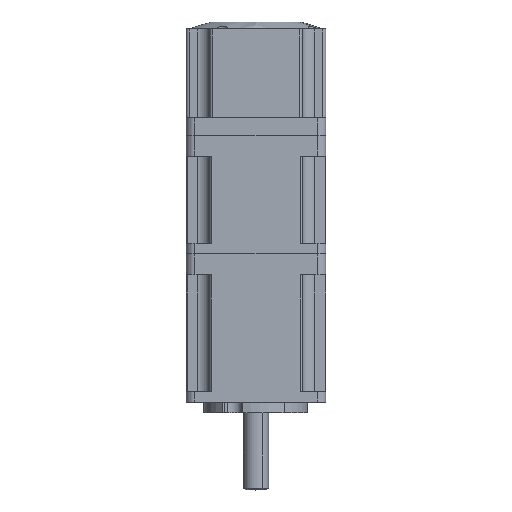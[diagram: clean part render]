
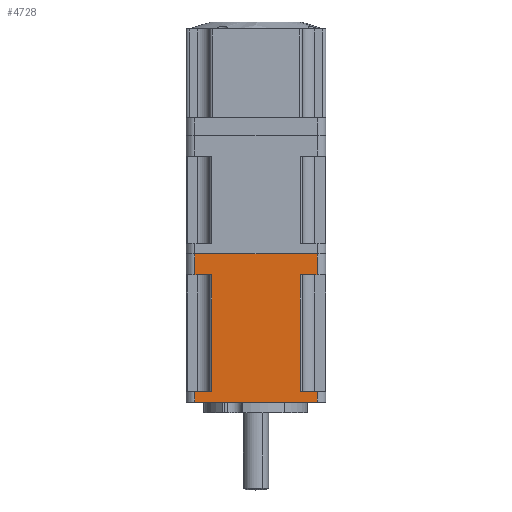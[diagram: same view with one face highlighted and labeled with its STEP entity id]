
A CAD part, top view. The second image highlights one B-rep face of the part: STEP entity #4728.
In plain terms, the highlighted planar face has unit normal (0, 0, 1).
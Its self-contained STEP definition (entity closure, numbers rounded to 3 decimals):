
#68 = ORIENTED_EDGE ( 'NONE', *, *, #2128, .F. ) ;
#127 = CARTESIAN_POINT ( 'NONE',  ( -1.039, 62.469, 73.692 ) ) ;
#206 = LINE ( 'NONE', #8833, #10479 ) ;
#232 = ORIENTED_EDGE ( 'NONE', *, *, #7313, .F. ) ;
#239 = CARTESIAN_POINT ( 'NONE',  ( 29.161, 22.969, 73.692 ) ) ;
#259 = VERTEX_POINT ( 'NONE', #10532 ) ;
#411 = DIRECTION ( 'NONE',  ( 0., -1., 0. ) ) ;
#527 = CARTESIAN_POINT ( 'NONE',  ( 33.961, 22.969, 73.692 ) ) ;
#610 = CARTESIAN_POINT ( 'NONE',  ( 33.961, 19.969, 73.692 ) ) ;
#707 = DIRECTION ( 'NONE',  ( 0., 0., -1. ) ) ;
#1215 = DIRECTION ( 'NONE',  ( 1., 0., 0. ) ) ;
#1231 = LINE ( 'NONE', #8728, #11729 ) ;
#1303 = VERTEX_POINT ( 'NONE', #9481 ) ;
#1333 = VERTEX_POINT ( 'NONE', #239 ) ;
#1360 = EDGE_CURVE ( 'NONE', #8077, #259, #10856, .T. ) ;
#1405 = ORIENTED_EDGE ( 'NONE', *, *, #11685, .F. ) ;
#1458 = CARTESIAN_POINT ( 'NONE',  ( 33.961, 62.469, 73.692 ) ) ;
#1465 = EDGE_CURVE ( 'NONE', #1303, #1555, #7496, .T. ) ;
#1555 = VERTEX_POINT ( 'NONE', #11956 ) ;
#1965 = VECTOR ( 'NONE', #2143, 1000. ) ;
#2128 = EDGE_CURVE ( 'NONE', #9692, #3900, #10387, .T. ) ;
#2143 = DIRECTION ( 'NONE',  ( 0., 1., 0. ) ) ;
#2276 = VECTOR ( 'NONE', #4032, 1000. ) ;
#2395 = ORIENTED_EDGE ( 'NONE', *, *, #12499, .F. ) ;
#2407 = CARTESIAN_POINT ( 'NONE',  ( 33.961, 56.469, 73.692 ) ) ;
#2558 = DIRECTION ( 'NONE',  ( 1., 0., 0. ) ) ;
#2611 = LINE ( 'NONE', #9096, #2276 ) ;
#3167 = EDGE_CURVE ( 'NONE', #3900, #9929, #1231, .T. ) ;
#3377 = ORIENTED_EDGE ( 'NONE', *, *, #7033, .F. ) ;
#3562 = VECTOR ( 'NONE', #1215, 1000. ) ;
#3677 = ORIENTED_EDGE ( 'NONE', *, *, #1360, .F. ) ;
#3883 = LINE ( 'NONE', #10377, #3562 ) ;
#3900 = VERTEX_POINT ( 'NONE', #9403 ) ;
#4032 = DIRECTION ( 'NONE',  ( -1., 0., 0. ) ) ;
#4123 = CARTESIAN_POINT ( 'NONE',  ( 3.761, 22.969, 73.692 ) ) ;
#4166 = EDGE_CURVE ( 'NONE', #6741, #9692, #2611, .T. ) ;
#4613 = VECTOR ( 'NONE', #7674, 1000. ) ;
#4653 = VERTEX_POINT ( 'NONE', #527 ) ;
#4728 = ADVANCED_FACE ( 'NONE', ( #9612 ), #8932, .F. ) ;
#4787 = LINE ( 'NONE', #12164, #1965 ) ;
#4793 = VECTOR ( 'NONE', #5403, 1000. ) ;
#4873 = CARTESIAN_POINT ( 'NONE',  ( -1.039, 19.969, 73.692 ) ) ;
#5043 = ORIENTED_EDGE ( 'NONE', *, *, #7403, .F. ) ;
#5166 = CARTESIAN_POINT ( 'NONE',  ( 3.761, 56.469, 73.692 ) ) ;
#5268 = VECTOR ( 'NONE', #12460, 1000. ) ;
#5403 = DIRECTION ( 'NONE',  ( 1., 0., 0. ) ) ;
#5604 = VECTOR ( 'NONE', #6919, 1000. ) ;
#5703 = ORIENTED_EDGE ( 'NONE', *, *, #1465, .F. ) ;
#6581 = CARTESIAN_POINT ( 'NONE',  ( 29.161, 62.469, 73.692 ) ) ;
#6741 = VERTEX_POINT ( 'NONE', #610 ) ;
#6919 = DIRECTION ( 'NONE',  ( -1., 0., 0. ) ) ;
#6925 = DIRECTION ( 'NONE',  ( 0., 1., 0. ) ) ;
#7033 = EDGE_CURVE ( 'NONE', #9929, #11480, #4787, .T. ) ;
#7313 = EDGE_CURVE ( 'NONE', #11480, #9730, #7321, .T. ) ;
#7321 = LINE ( 'NONE', #10636, #4613 ) ;
#7403 = EDGE_CURVE ( 'NONE', #1555, #8077, #11932, .T. ) ;
#7416 = ORIENTED_EDGE ( 'NONE', *, *, #3167, .F. ) ;
#7464 = VECTOR ( 'NONE', #10397, 1000. ) ;
#7496 = LINE ( 'NONE', #11346, #4793 ) ;
#7589 = ORIENTED_EDGE ( 'NONE', *, *, #7926, .F. ) ;
#7627 = LINE ( 'NONE', #6581, #5268 ) ;
#7674 = DIRECTION ( 'NONE',  ( -1., 0., 0. ) ) ;
#7802 = CARTESIAN_POINT ( 'NONE',  ( 33.961, 56.469, 73.692 ) ) ;
#7808 = EDGE_LOOP ( 'NONE', ( #3677, #5043, #5703, #2395, #232, #3377, #7416, #68, #11880, #1405, #12505, #7589 ) ) ;
#7926 = EDGE_CURVE ( 'NONE', #259, #1333, #7627, .T. ) ;
#7981 = DIRECTION ( 'NONE',  ( -1., 0., 0. ) ) ;
#8077 = VERTEX_POINT ( 'NONE', #2407 ) ;
#8728 = CARTESIAN_POINT ( 'NONE',  ( -3.539, 22.969, 73.692 ) ) ;
#8833 = CARTESIAN_POINT ( 'NONE',  ( -1.039, 62.469, 73.692 ) ) ;
#8932 = PLANE ( 'NONE',  #11096 ) ;
#9096 = CARTESIAN_POINT ( 'NONE',  ( -3.539, 19.969, 73.692 ) ) ;
#9324 = EDGE_CURVE ( 'NONE', #1333, #4653, #3883, .T. ) ;
#9330 = VECTOR ( 'NONE', #411, 1000. ) ;
#9403 = CARTESIAN_POINT ( 'NONE',  ( -1.039, 22.969, 73.692 ) ) ;
#9481 = CARTESIAN_POINT ( 'NONE',  ( -1.039, 62.469, 73.692 ) ) ;
#9612 = FACE_OUTER_BOUND ( 'NONE', #7808, .T. ) ;
#9668 = DIRECTION ( 'NONE',  ( 0., -1., 0. ) ) ;
#9692 = VERTEX_POINT ( 'NONE', #4873 ) ;
#9730 = VERTEX_POINT ( 'NONE', #12822 ) ;
#9929 = VERTEX_POINT ( 'NONE', #4123 ) ;
#10377 = CARTESIAN_POINT ( 'NONE',  ( -3.539, 22.969, 73.692 ) ) ;
#10387 = LINE ( 'NONE', #127, #7464 ) ;
#10397 = DIRECTION ( 'NONE',  ( 0., 1., 0. ) ) ;
#10479 = VECTOR ( 'NONE', #6925, 1000. ) ;
#10532 = CARTESIAN_POINT ( 'NONE',  ( 29.161, 56.469, 73.692 ) ) ;
#10548 = CARTESIAN_POINT ( 'NONE',  ( -3.539, 56.469, 73.692 ) ) ;
#10636 = CARTESIAN_POINT ( 'NONE',  ( -3.539, 56.469, 73.692 ) ) ;
#10856 = LINE ( 'NONE', #10548, #5604 ) ;
#11096 = AXIS2_PLACEMENT_3D ( 'NONE', #11876, #707, #7981 ) ;
#11346 = CARTESIAN_POINT ( 'NONE',  ( 16.461, 62.469, 73.692 ) ) ;
#11480 = VERTEX_POINT ( 'NONE', #5166 ) ;
#11685 = EDGE_CURVE ( 'NONE', #4653, #6741, #12323, .T. ) ;
#11729 = VECTOR ( 'NONE', #2558, 1000. ) ;
#11876 = CARTESIAN_POINT ( 'NONE',  ( -3.539, 62.469, 73.692 ) ) ;
#11880 = ORIENTED_EDGE ( 'NONE', *, *, #4166, .F. ) ;
#11932 = LINE ( 'NONE', #7802, #9330 ) ;
#11956 = CARTESIAN_POINT ( 'NONE',  ( 33.961, 62.469, 73.692 ) ) ;
#12015 = VECTOR ( 'NONE', #9668, 1000. ) ;
#12164 = CARTESIAN_POINT ( 'NONE',  ( 3.761, 62.469, 73.692 ) ) ;
#12323 = LINE ( 'NONE', #1458, #12015 ) ;
#12460 = DIRECTION ( 'NONE',  ( 0., -1., 0. ) ) ;
#12499 = EDGE_CURVE ( 'NONE', #9730, #1303, #206, .T. ) ;
#12505 = ORIENTED_EDGE ( 'NONE', *, *, #9324, .F. ) ;
#12822 = CARTESIAN_POINT ( 'NONE',  ( -1.039, 56.469, 73.692 ) ) ;
